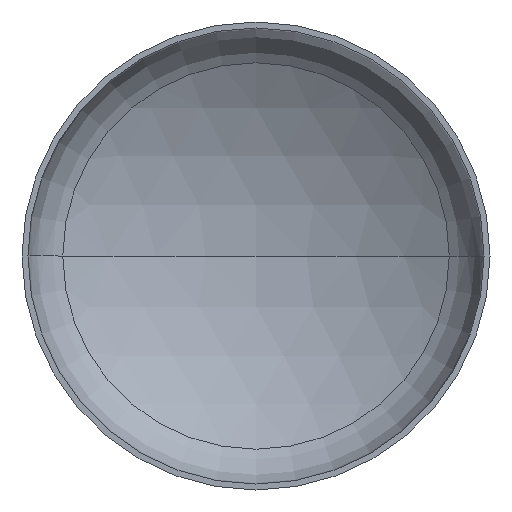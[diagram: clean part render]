
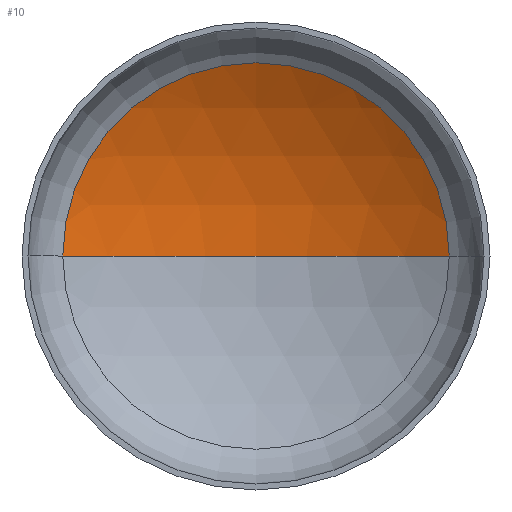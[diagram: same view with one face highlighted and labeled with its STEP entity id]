
A CAD part, front view. The second image highlights one B-rep face of the part: STEP entity #10.
In plain terms, the highlighted spherical face has radius 2080 mm.
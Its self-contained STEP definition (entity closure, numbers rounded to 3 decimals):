
#2 = DIRECTION ( 'NONE',  ( 0., -1., 0. ) ) ;
#5 = EDGE_LOOP ( 'NONE', ( #230, #43, #228 ) ) ;
#9 = CARTESIAN_POINT ( 'NONE',  ( 0., 442.618, 0. ) ) ;
#10 = ADVANCED_FACE ( 'NONE', ( #233 ), #183, .F. ) ;
#29 = AXIS2_PLACEMENT_3D ( 'NONE', #181, #207, #201 ) ;
#34 = AXIS2_PLACEMENT_3D ( 'NONE', #384, #405, #264 ) ;
#37 = AXIS2_PLACEMENT_3D ( 'NONE', #9, #2, #38 ) ;
#38 = DIRECTION ( 'NONE',  ( 1., 0., 0. ) ) ;
#43 = ORIENTED_EDGE ( 'NONE', *, *, #128, .T. ) ;
#86 = AXIS2_PLACEMENT_3D ( 'NONE', #247, #282, #279 ) ;
#126 = EDGE_CURVE ( 'NONE', #260, #204, #302, .T. ) ;
#128 = EDGE_CURVE ( 'NONE', #212, #260, #360, .T. ) ;
#129 = EDGE_CURVE ( 'NONE', #212, #204, #295, .T. ) ;
#154 = CARTESIAN_POINT ( 'NONE',  ( 0., 741.003, 0. ) ) ;
#161 = CARTESIAN_POINT ( 'NONE',  ( 1073.429, 442.618, 0. ) ) ;
#181 = CARTESIAN_POINT ( 'NONE',  ( 0., -1338.997, 0. ) ) ;
#183 = SPHERICAL_SURFACE ( 'NONE', #86, 2080. ) ;
#201 = DIRECTION ( 'NONE',  ( 1., 0., 0. ) ) ;
#204 = VERTEX_POINT ( 'NONE', #246 ) ;
#207 = DIRECTION ( 'NONE',  ( 0., 0., 1. ) ) ;
#212 = VERTEX_POINT ( 'NONE', #154 ) ;
#228 = ORIENTED_EDGE ( 'NONE', *, *, #126, .T. ) ;
#230 = ORIENTED_EDGE ( 'NONE', *, *, #129, .F. ) ;
#233 = FACE_OUTER_BOUND ( 'NONE', #5, .T. ) ;
#246 = CARTESIAN_POINT ( 'NONE',  ( -1073.429, 442.618, 0. ) ) ;
#247 = CARTESIAN_POINT ( 'NONE',  ( 0., -1338.997, 0. ) ) ;
#260 = VERTEX_POINT ( 'NONE', #161 ) ;
#264 = DIRECTION ( 'NONE',  ( -1., 0., 0. ) ) ;
#279 = DIRECTION ( 'NONE',  ( -1., 0., 0. ) ) ;
#282 = DIRECTION ( 'NONE',  ( 0., 0., -1. ) ) ;
#295 = CIRCLE ( 'NONE', #29, 2080. ) ;
#302 = CIRCLE ( 'NONE', #37, 1073.429 ) ;
#360 = CIRCLE ( 'NONE', #34, 2080. ) ;
#384 = CARTESIAN_POINT ( 'NONE',  ( 0., -1338.997, 0. ) ) ;
#405 = DIRECTION ( 'NONE',  ( 0., 0., -1. ) ) ;
